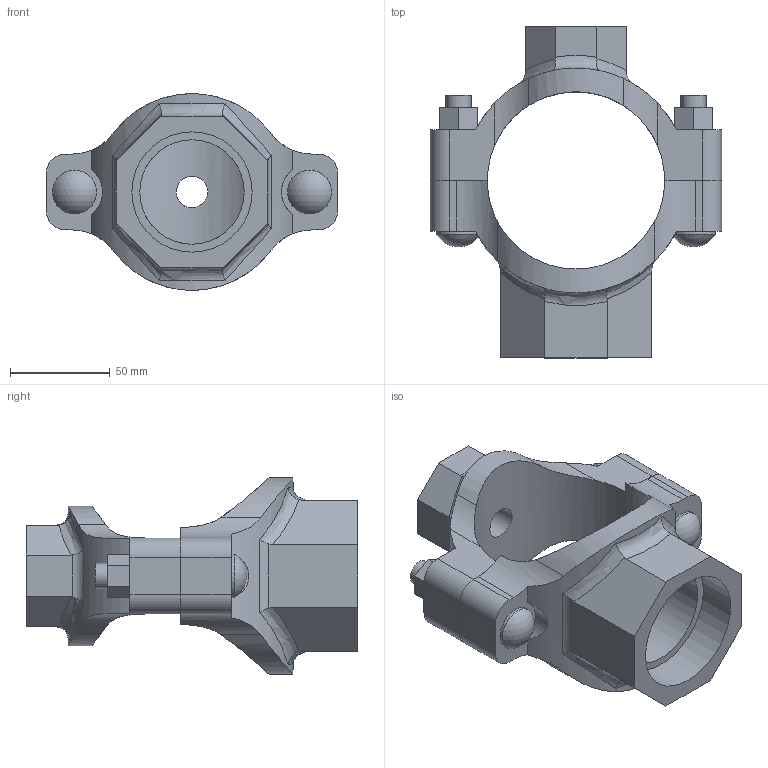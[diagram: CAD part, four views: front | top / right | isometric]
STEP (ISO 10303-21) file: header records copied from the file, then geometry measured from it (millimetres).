
FILE_DESCRIPTION(/* description */ ('VIC MECH-T BRANCH OUTLET CROSS STYLE 920N (THD)','CAx-IF Rec.Pracs.---Representation and Presentation of Product Manufacturing Information (PMI)---4.0---2014-10-13'),/* implementation_level */ '2;1');
FILE_NAME(/* name */ 'C:\Users\Vjadhav\AppData\Roaming\Autodesk\ApplicationPlugins\Back Up\Victaulic_IPS_Mechanical-Cross Outlet_Style 920N (FPT)\Victaulic_IPS_Mechanical-Cross Outlet_03.0x0.5x02.0 (80x15x50).stp',/* time_stamp */ '2020-08-06T18:57:13+05:00',/* author */ ('Vjadhav'),/* organization */ ('Victaulic'),/* preprocessor_version */ 'ST-DEVELOPER v17.2',/* originating_system */ 'Autodesk Inventor 2019',/* authorisation */ '');
FILE_SCHEMA (('AP242_MANAGED_MODEL_BASED_3D_ENGINEERING_MIM_LF { 1 0 10303 442 1 1 4 }'));
Length unit declared in the file: inch
Products named in the file (3): 920NT-03.0x0.5x02.0; 920NT-03.0x0.5; 920NT-03.0x02.0
Assembly tree (2 placements, depth 2):
  920NT-03.0x0.5x02.0
    920NT-03.0x0.5
    920NT-03.0x02.0
Bounding box: 146.05 x 166.37 x 98.5 mm (x, y, z)
Volume: 388979.5 mm3; surface area: 86805.2 mm2
Topology: 2 solids, 2 shells, 132 faces, 350 edges, 236 vertices
Faces by surface type: plane 68, cylinder 50, bspline 8, torus 4, sphere 2
Full cylindrical faces by diameter (mm): 12.7 x4, 15.799 x1, 21.336 x1, 21.982 x2, 52.387 x1, 60.325 x1
Entity records: 5136 total; most frequent: CARTESIAN_POINT 1623, ORIENTED_EDGE 700, DIRECTION 648, EDGE_CURVE 350, VERTEX_POINT 236, AXIS2_PLACEMENT_3D 231, LINE 186, VECTOR 186
